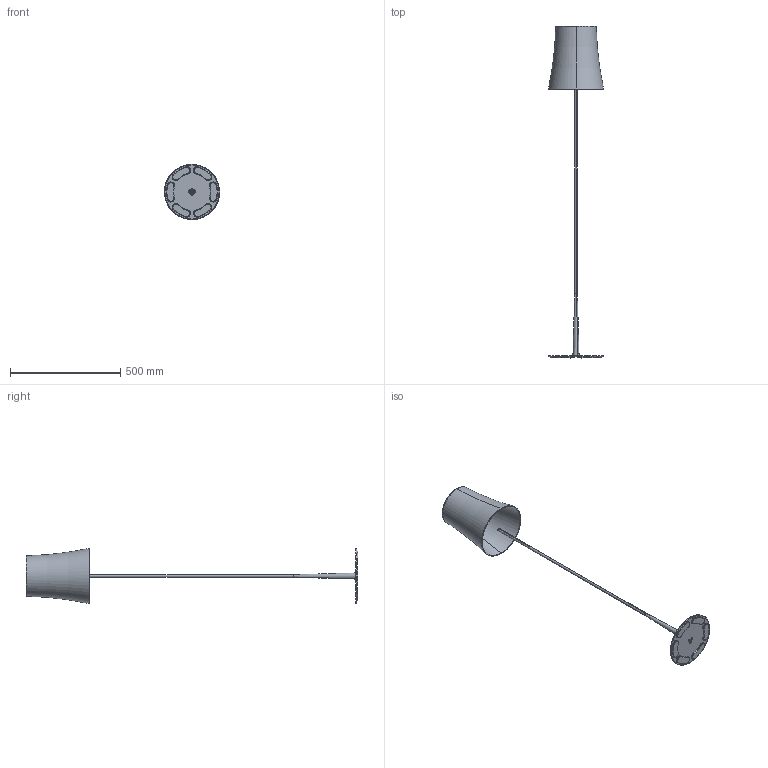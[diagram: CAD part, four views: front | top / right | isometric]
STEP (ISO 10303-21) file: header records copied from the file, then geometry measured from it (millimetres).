
FILE_DESCRIPTION (( 'STEP AP214' ), '1' );
FILE_NAME ('221_EASY_R_PL_3D.STEP', '2021-05-03T14:12:03', ( '' ), ( '' ), 'SwSTEP 2.0', 'SolidWorks 2021', '' );
FILE_SCHEMA (( 'AUTOMOTIVE_DESIGN' ));
Length unit declared in the file: millimetre
Products named in the file (1): 221_EASY_R_PL_3D
Bounding box: 250 x 1503.5 x 250 mm (x, y, z)
Volume: 1029835.9 mm3; surface area: 584561 mm2
Topology: 4 solids, 4 shells, 173 faces, 417 edges, 251 vertices
Faces by surface type: torus 76, cylinder 54, cone 26, plane 13, bspline 4
Entity records: 9312 total; most frequent: CARTESIAN_POINT 3181, DIRECTION 996, ORIENTED_EDGE 822, AXIS2_PLACEMENT_3D 458, EDGE_CURVE 411, CIRCLE 288, VERTEX_POINT 251, EDGE_LOOP 192
